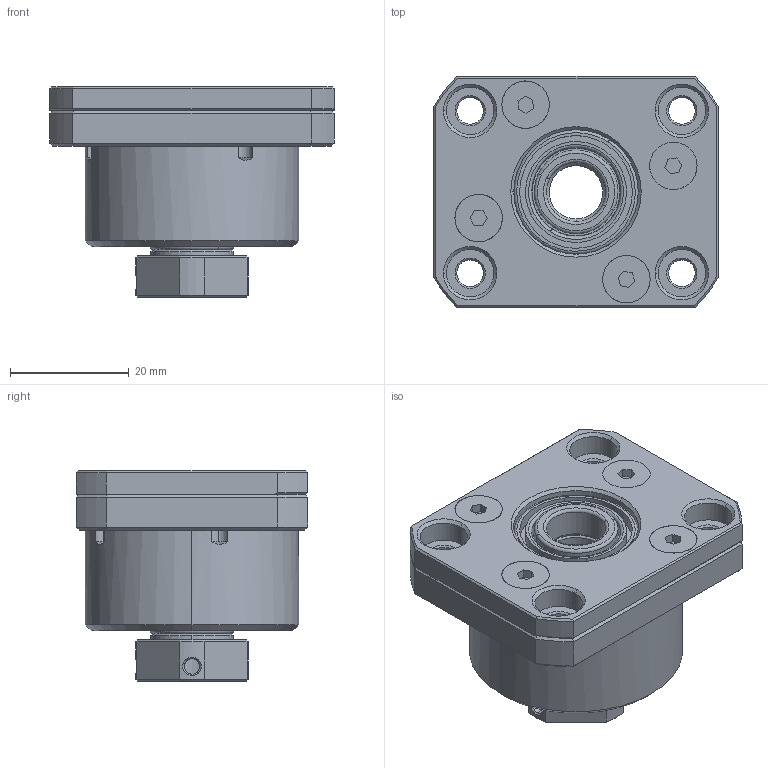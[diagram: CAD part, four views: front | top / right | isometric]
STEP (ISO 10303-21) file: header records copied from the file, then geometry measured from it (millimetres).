
FILE_DESCRIPTION (( 'STEP AP203' ), '1' );
FILE_NAME ('FKA10²Õ¦X¥óB.STEP', '2021-09-29T02:51:24', ( '' ), ( '' ), 'SwSTEP 2.0', 'SolidWorks 2018', '' );
FILE_SCHEMA (( 'CONFIG_CONTROL_DESIGN' ));
Length unit declared in the file: millimetre
Products named in the file (1): FKA10組合件B
Bounding box: 48 x 39 x 35.5 mm (x, y, z)
Surface area: 13445 mm2 (no closed solid volume)
Topology: 0 solids, 19 shells, 244 faces, 642 edges, 417 vertices
Faces by surface type: plane 85, cylinder 71, cone 66, torus 18, bspline 4
Entity records: 8213 total; most frequent: CARTESIAN_POINT 2017, DIRECTION 1359, ORIENTED_EDGE 1153, EDGE_CURVE 642, AXIS2_PLACEMENT_3D 553, VERTEX_POINT 417, CIRCLE 312, EDGE_LOOP 295
